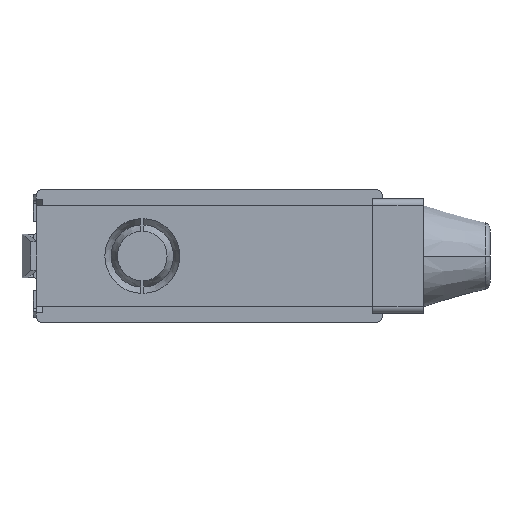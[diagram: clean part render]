
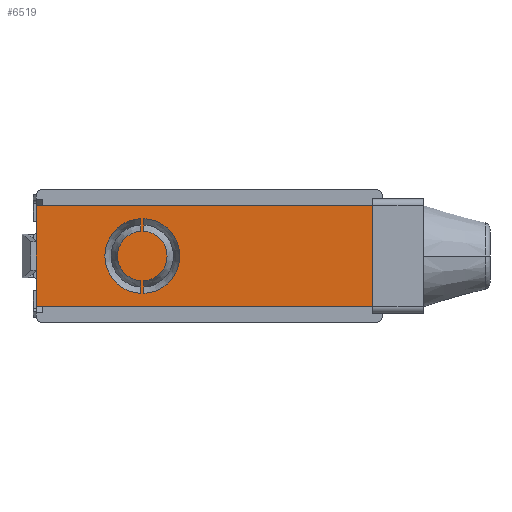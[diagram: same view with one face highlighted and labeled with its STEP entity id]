
A CAD part, front view. The second image highlights one B-rep face of the part: STEP entity #6519.
In plain terms, the highlighted planar face has unit normal (0, -1, 0).
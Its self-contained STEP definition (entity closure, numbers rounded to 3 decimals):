
#3891 = CARTESIAN_POINT ( 'NONE',  ( -10.8, -19.6, -3.892 ) ) ;
#3893 = CARTESIAN_POINT ( 'NONE',  ( -10.8, -19.6, 3.892 ) ) ;
#3901 = CARTESIAN_POINT ( 'NONE',  ( -10.8, -19.6, 5.895 ) ) ;
#3904 = CARTESIAN_POINT ( 'NONE',  ( -10.8, -19.6, -5.895 ) ) ;
#3954 = CARTESIAN_POINT ( 'NONE',  ( -27.25, -19.6, -7.95 ) ) ;
#3956 = CARTESIAN_POINT ( 'NONE',  ( -27.25, -19.6, 7.95 ) ) ;
#3996 = CARTESIAN_POINT ( 'NONE',  ( 27.25, -19.6, 7.95 ) ) ;
#3999 = CARTESIAN_POINT ( 'NONE',  ( -10.3, -19.6, -3.892 ) ) ;
#4000 = CARTESIAN_POINT ( 'NONE',  ( 27.25, -19.6, -7.95 ) ) ;
#4001 = CARTESIAN_POINT ( 'NONE',  ( -10.3, -19.6, 3.892 ) ) ;
#4011 = CARTESIAN_POINT ( 'NONE',  ( -10.3, -19.6, 5.895 ) ) ;
#4013 = CARTESIAN_POINT ( 'NONE',  ( -10.3, -19.6, -5.895 ) ) ;
#4401 = VECTOR ( 'NONE', #15201, 1000. ) ;
#4427 = VECTOR ( 'NONE', #15276, 1000. ) ;
#4440 = VECTOR ( 'NONE', #15318, 1000. ) ;
#4485 = AXIS2_PLACEMENT_3D ( 'NONE', #15517, #15518, #15519 ) ;
#4486 = VECTOR ( 'NONE', #15453, 1000. ) ;
#4499 = AXIS2_PLACEMENT_3D ( 'NONE', #15489, #15490, #15491 ) ;
#4581 = AXIS2_PLACEMENT_3D ( 'NONE', #15771, #15772, #15773 ) ;
#4583 = AXIS2_PLACEMENT_3D ( 'NONE', #15774, #15775, #15776 ) ;
#4584 = VECTOR ( 'NONE', #15791, 1000. ) ;
#4585 = VECTOR ( 'NONE', #15794, 1000. ) ;
#4586 = VECTOR ( 'NONE', #15797, 1000. ) ;
#4587 = VECTOR ( 'NONE', #15800, 1000. ) ;
#4649 = FACE_BOUND ( 'NONE', #7310, .T. ) ;
#4655 = FACE_BOUND ( 'NONE', #7311, .T. ) ;
#4657 = FACE_OUTER_BOUND ( 'NONE', #7312, .T. ) ;
#4659 = AXIS2_PLACEMENT_3D ( 'NONE', #16022, #16023, #16024 ) ;
#6265 = EDGE_CURVE ( 'NONE', #10967, #10965, #15199, .T. ) ;
#6290 = EDGE_CURVE ( 'NONE', #11011, #10965, #15274, .T. ) ;
#6304 = EDGE_CURVE ( 'NONE', #11007, #10967, #15316, .T. ) ;
#6349 = EDGE_CURVE ( 'NONE', #11007, #11011, #15451, .T. ) ;
#6362 = EDGE_CURVE ( 'NONE', #11010, #11012, #8790, .T. ) ;
#6368 = EDGE_CURVE ( 'NONE', #11024, #11022, #8792, .T. ) ;
#6451 = EDGE_CURVE ( 'NONE', #10912, #10915, #8814, .T. ) ;
#6452 = EDGE_CURVE ( 'NONE', #10904, #10902, #8815, .T. ) ;
#6455 = EDGE_CURVE ( 'NONE', #11012, #11022, #15789, .T. ) ;
#6456 = EDGE_CURVE ( 'NONE', #11024, #11010, #15792, .T. ) ;
#6457 = EDGE_CURVE ( 'NONE', #10902, #10915, #15795, .T. ) ;
#6458 = EDGE_CURVE ( 'NONE', #10912, #10904, #15798, .T. ) ;
#6519 = ADVANCED_FACE ( 'NONE', ( #4649, #4655, #4657 ), #16021, .F. ) ;
#7080 = ORIENTED_EDGE ( 'NONE', *, *, #6456, .T. ) ;
#7081 = ORIENTED_EDGE ( 'NONE', *, *, #6455, .T. ) ;
#7082 = ORIENTED_EDGE ( 'NONE', *, *, #6368, .F. ) ;
#7083 = ORIENTED_EDGE ( 'NONE', *, *, #6458, .T. ) ;
#7084 = ORIENTED_EDGE ( 'NONE', *, *, #6362, .T. ) ;
#7085 = ORIENTED_EDGE ( 'NONE', *, *, #6457, .T. ) ;
#7086 = ORIENTED_EDGE ( 'NONE', *, *, #6451, .F. ) ;
#7087 = ORIENTED_EDGE ( 'NONE', *, *, #6304, .T. ) ;
#7088 = ORIENTED_EDGE ( 'NONE', *, *, #6452, .T. ) ;
#7089 = ORIENTED_EDGE ( 'NONE', *, *, #6265, .T. ) ;
#7090 = ORIENTED_EDGE ( 'NONE', *, *, #6290, .F. ) ;
#7091 = ORIENTED_EDGE ( 'NONE', *, *, #6349, .F. ) ;
#7310 = EDGE_LOOP ( 'NONE', ( #7081, #7082, #7080, #7084 ) ) ;
#7311 = EDGE_LOOP ( 'NONE', ( #7085, #7086, #7083, #7088 ) ) ;
#7312 = EDGE_LOOP ( 'NONE', ( #7089, #7090, #7091, #7087 ) ) ;
#8790 = CIRCLE ( 'NONE', #4499, 3.9 ) ;
#8792 = CIRCLE ( 'NONE', #4485, 5.9 ) ;
#8814 = CIRCLE ( 'NONE', #4581, 5.9 ) ;
#8815 = CIRCLE ( 'NONE', #4583, 3.9 ) ;
#10902 = VERTEX_POINT ( 'NONE', #3891 ) ;
#10904 = VERTEX_POINT ( 'NONE', #3893 ) ;
#10912 = VERTEX_POINT ( 'NONE', #3901 ) ;
#10915 = VERTEX_POINT ( 'NONE', #3904 ) ;
#10965 = VERTEX_POINT ( 'NONE', #3954 ) ;
#10967 = VERTEX_POINT ( 'NONE', #3956 ) ;
#11007 = VERTEX_POINT ( 'NONE', #3996 ) ;
#11010 = VERTEX_POINT ( 'NONE', #3999 ) ;
#11011 = VERTEX_POINT ( 'NONE', #4000 ) ;
#11012 = VERTEX_POINT ( 'NONE', #4001 ) ;
#11022 = VERTEX_POINT ( 'NONE', #4011 ) ;
#11024 = VERTEX_POINT ( 'NONE', #4013 ) ;
#15199 = LINE ( 'NONE', #15200, #4401 ) ;
#15200 = CARTESIAN_POINT ( 'NONE',  ( -27.25, -19.6, 7.95 ) ) ;
#15201 = DIRECTION ( 'NONE',  ( 0., 0., -1. ) ) ;
#15274 = LINE ( 'NONE', #15275, #4427 ) ;
#15275 = CARTESIAN_POINT ( 'NONE',  ( 27.25, -19.6, -7.95 ) ) ;
#15276 = DIRECTION ( 'NONE',  ( -1., 0., 0. ) ) ;
#15316 = LINE ( 'NONE', #15317, #4440 ) ;
#15317 = CARTESIAN_POINT ( 'NONE',  ( 27.25, -19.6, 7.95 ) ) ;
#15318 = DIRECTION ( 'NONE',  ( -1., 0., 0. ) ) ;
#15451 = LINE ( 'NONE', #15452, #4486 ) ;
#15452 = CARTESIAN_POINT ( 'NONE',  ( 27.25, -19.6, 7.95 ) ) ;
#15453 = DIRECTION ( 'NONE',  ( 0., 0., -1. ) ) ;
#15489 = CARTESIAN_POINT ( 'NONE',  ( -10.55, -19.6, 0. ) ) ;
#15490 = DIRECTION ( 'NONE',  ( 0., -1., 0. ) ) ;
#15491 = DIRECTION ( 'NONE',  ( 0., 0., -1. ) ) ;
#15517 = CARTESIAN_POINT ( 'NONE',  ( -10.55, -19.6, 0. ) ) ;
#15518 = DIRECTION ( 'NONE',  ( 0., -1., 0. ) ) ;
#15519 = DIRECTION ( 'NONE',  ( 0., 0., -1. ) ) ;
#15771 = CARTESIAN_POINT ( 'NONE',  ( -10.55, -19.6, 0. ) ) ;
#15772 = DIRECTION ( 'NONE',  ( 0., -1., 0. ) ) ;
#15773 = DIRECTION ( 'NONE',  ( 0., 0., -1. ) ) ;
#15774 = CARTESIAN_POINT ( 'NONE',  ( -10.55, -19.6, 0. ) ) ;
#15775 = DIRECTION ( 'NONE',  ( 0., -1., 0. ) ) ;
#15776 = DIRECTION ( 'NONE',  ( 0., 0., -1. ) ) ;
#15789 = LINE ( 'NONE', #15790, #4584 ) ;
#15790 = CARTESIAN_POINT ( 'NONE',  ( -10.3, -19.6, -5.9 ) ) ;
#15791 = DIRECTION ( 'NONE',  ( 0., 0., 1. ) ) ;
#15792 = LINE ( 'NONE', #15793, #4585 ) ;
#15793 = CARTESIAN_POINT ( 'NONE',  ( -10.3, -19.6, -5.9 ) ) ;
#15794 = DIRECTION ( 'NONE',  ( 0., 0., 1. ) ) ;
#15795 = LINE ( 'NONE', #15796, #4586 ) ;
#15796 = CARTESIAN_POINT ( 'NONE',  ( -10.8, -19.6, -5.9 ) ) ;
#15797 = DIRECTION ( 'NONE',  ( 0., 0., -1. ) ) ;
#15798 = LINE ( 'NONE', #15799, #4587 ) ;
#15799 = CARTESIAN_POINT ( 'NONE',  ( -10.8, -19.6, -5.9 ) ) ;
#15800 = DIRECTION ( 'NONE',  ( 0., 0., -1. ) ) ;
#16021 = PLANE ( 'NONE',  #4659 ) ;
#16022 = CARTESIAN_POINT ( 'NONE',  ( 27.25, -19.6, 7.95 ) ) ;
#16023 = DIRECTION ( 'NONE',  ( 0., 1., 0. ) ) ;
#16024 = DIRECTION ( 'NONE',  ( 0., 0., 1. ) ) ;
